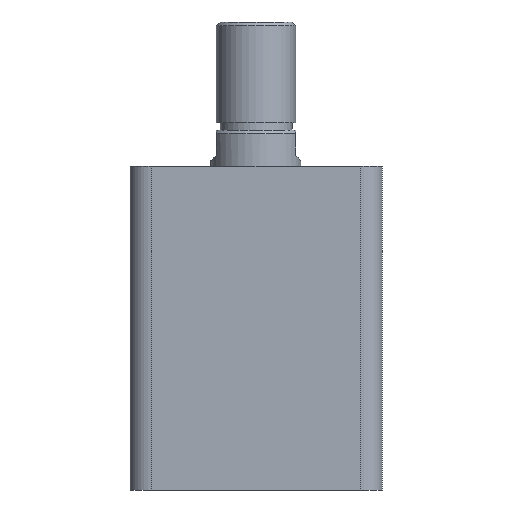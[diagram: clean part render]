
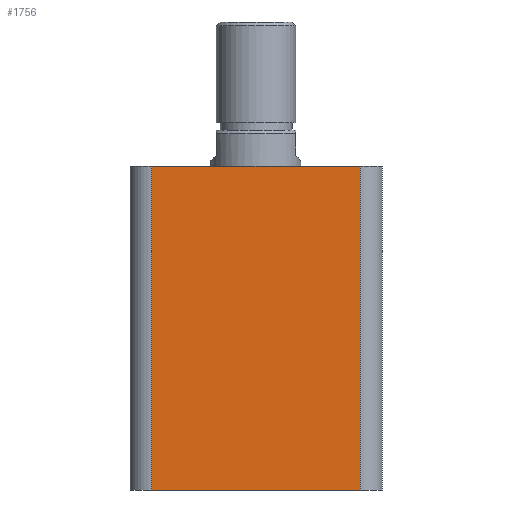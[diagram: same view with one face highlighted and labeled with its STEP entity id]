
A CAD part, front view. The second image highlights one B-rep face of the part: STEP entity #1756.
In plain terms, the highlighted planar face has unit normal (0, -1, 0).
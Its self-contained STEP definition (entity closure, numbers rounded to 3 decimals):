
#40 = VERTEX_POINT ( 'NONE', #1702 ) ;
#41 = VERTEX_POINT ( 'NONE', #1670 ) ;
#42 = VERTEX_POINT ( 'NONE', #1666 ) ;
#60 = VERTEX_POINT ( 'NONE', #1646 ) ;
#184 = ORIENTED_EDGE ( 'NONE', *, *, #2652, .T. ) ;
#293 = EDGE_LOOP ( 'NONE', ( #552, #626, #184, #351 ) ) ;
#351 = ORIENTED_EDGE ( 'NONE', *, *, #2653, .T. ) ;
#552 = ORIENTED_EDGE ( 'NONE', *, *, #2651, .F. ) ;
#626 = ORIENTED_EDGE ( 'NONE', *, *, #2647, .T. ) ;
#757 = DIRECTION ( 'NONE',  ( 0., 0., 1. ) ) ;
#759 = CARTESIAN_POINT ( 'NONE',  ( 29., -35., 90. ) ) ;
#761 = DIRECTION ( 'NONE',  ( 1., 0., 0. ) ) ;
#762 = CARTESIAN_POINT ( 'NONE',  ( -35., -35., 0. ) ) ;
#763 = DIRECTION ( 'NONE',  ( 1., 0., 0. ) ) ;
#764 = CARTESIAN_POINT ( 'NONE',  ( -35., -35., 90. ) ) ;
#779 = CARTESIAN_POINT ( 'NONE',  ( -29., -35., 90. ) ) ;
#806 = DIRECTION ( 'NONE',  ( 0., 0., -1. ) ) ;
#1149 = AXIS2_PLACEMENT_3D ( 'NONE', #2111, #2104, #2103 ) ;
#1231 = VECTOR ( 'NONE', #757, 1000. ) ;
#1233 = VECTOR ( 'NONE', #761, 1000. ) ;
#1234 = LINE ( 'NONE', #759, #1231 ) ;
#1235 = VECTOR ( 'NONE', #763, 1000. ) ;
#1236 = LINE ( 'NONE', #762, #1233 ) ;
#1238 = LINE ( 'NONE', #764, #1235 ) ;
#1243 = VECTOR ( 'NONE', #806, 1000. ) ;
#1245 = LINE ( 'NONE', #779, #1243 ) ;
#1466 = FACE_OUTER_BOUND ( 'NONE', #293, .T. ) ;
#1646 = CARTESIAN_POINT ( 'NONE',  ( -29., -35., 90. ) ) ;
#1666 = CARTESIAN_POINT ( 'NONE',  ( 29., -35., 90. ) ) ;
#1670 = CARTESIAN_POINT ( 'NONE',  ( -29., -35., 0. ) ) ;
#1702 = CARTESIAN_POINT ( 'NONE',  ( 29., -35., 0. ) ) ;
#1756 = ADVANCED_FACE ( 'NONE', ( #1466 ), #2105, .F. ) ;
#2103 = DIRECTION ( 'NONE',  ( 0., 0., 1. ) ) ;
#2104 = DIRECTION ( 'NONE',  ( 0., 1., 0. ) ) ;
#2105 = PLANE ( 'NONE',  #1149 ) ;
#2111 = CARTESIAN_POINT ( 'NONE',  ( -35., -35., 90. ) ) ;
#2647 = EDGE_CURVE ( 'NONE', #60, #41, #1245, .T. ) ;
#2651 = EDGE_CURVE ( 'NONE', #60, #42, #1238, .T. ) ;
#2652 = EDGE_CURVE ( 'NONE', #41, #40, #1236, .T. ) ;
#2653 = EDGE_CURVE ( 'NONE', #40, #42, #1234, .T. ) ;
